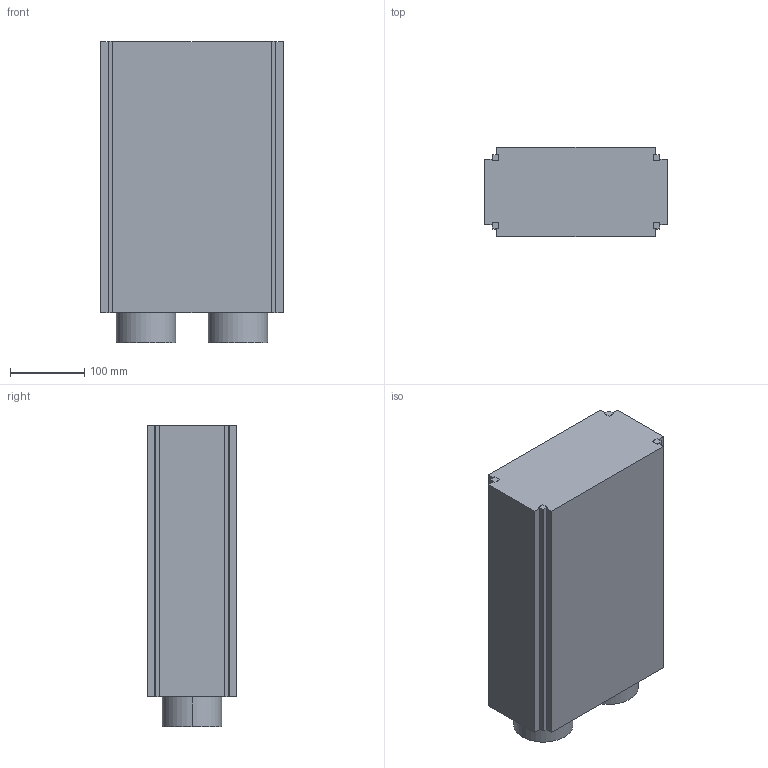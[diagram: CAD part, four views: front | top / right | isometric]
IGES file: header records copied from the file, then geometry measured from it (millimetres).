
Start section:  PTC IGES file: C:\Users\gleb\z) Windows folders\Desktop\1) ISIPOD Fligh t Model\4) CubeSat_Dims\160916_Updated_CubeSat_ISIS_Advised_Max_Dimensio ns\160916_RevD_6U-XL_CubeSat_ISIS_Advised_Max_Dimensions.igs
Global section: file name: C:\Users\gleb\z) Windows folders\Desktop\1) ISIPOD Flight Model\4) CubeSat_Dims\160916_Updated_CubeSat_ISIS_Advised_Max_Dimensions\160916_RevD_6U-XL_CubeSat_ISIS_Advised_Max_Dimensions.igs; native system: gleb by Parametric Technology Corporation; preprocessor: 2003250; author: Unknown; organization: PTC; date: 160916.095721; units: millimetre
Bounding box: 246.3 x 120 x 405.9 mm (x, y, z)
Volume: 10879746.9 mm3; surface area: 344356.9 mm2
Topology: 1 solids, 1 shells, 44 faces, 120 edges, 80 vertices
Faces by surface type: bspline 40, revolution 4
